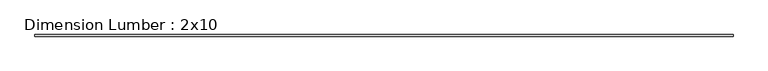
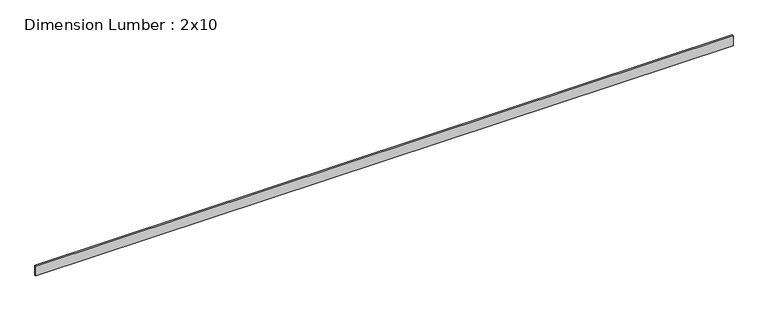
"""IFC4 building model written with IfcOpenShell, lengths in millimetres: beam geometry, Dimension Lumber : 2x10."""

from ifc_helpers import new_model, si_unit, frame, origin, place, context, project, spatial, polyline, outline, extrude, source, transform, mapped, element, save


def dimension_lumber_2x10_dc27a706(model_context):
    return source(origin(), model_context, "Body", "SweptSolid", [
        extrude(outline(polyline([(6921.6267238, 19.05), (6921.6267238, -19.05), (-9019.871011, -19.05), (-9019.871011, 19.05), (6921.6267238, 19.05)])), frame((0.0, 0.0, -117.475), z_axis=(0.0, 0.0, 1.0), x_axis=(1.0, 0.0, 0.0)), (0.0, 0.0, 1.0), 234.95),
    ])


if __name__ == "__main__":
    model = new_model("IFC4")
    model_context = context("Model", 3, world=origin())
    ifc_project = project(units=[si_unit("LENGTHUNIT", "METRE", prefix="MILLI")], contexts=[model_context])
    site = spatial("IfcSite", under=ifc_project)
    building = spatial("IfcBuilding", under=site)
    placement = place(None, origin())
    dimension_lumber_2x10_shape = dimension_lumber_2x10_dc27a706(model_context)
    element("IfcBeam", 1, ObjectType="Dimension Lumber : 2x10", at=placement, inside=building, context=model_context, shape_type="MappedRepresentation", body=[
        mapped(dimension_lumber_2x10_shape, transform((0.0, 0.0, 0.0), x_axis=(1.0, 0.0, 0.0), y_axis=(0.0, 1.0, 0.0), z_axis=(0.0, 0.0, 1.0))),
    ])
    save(model, "model.ifc")
